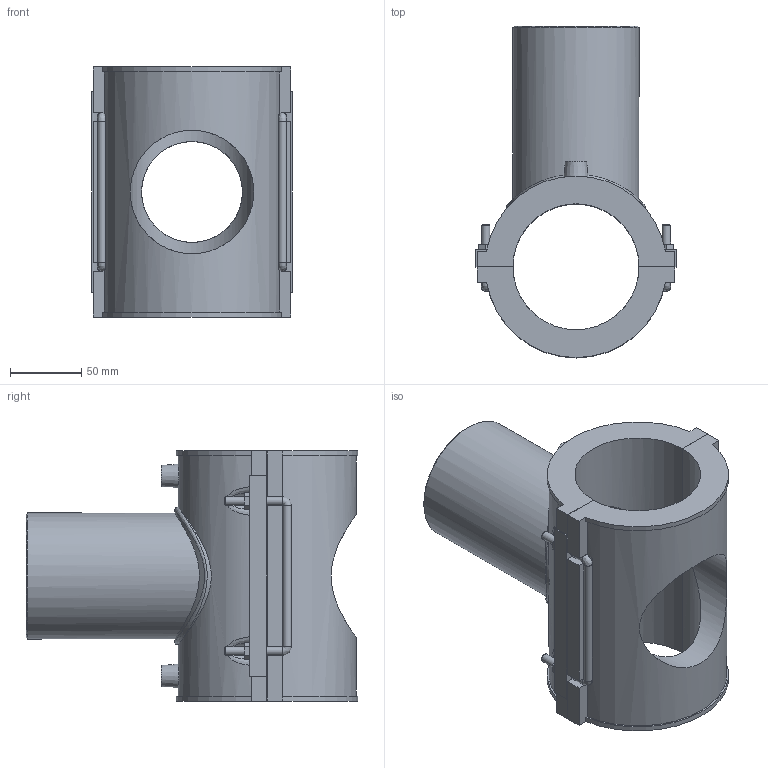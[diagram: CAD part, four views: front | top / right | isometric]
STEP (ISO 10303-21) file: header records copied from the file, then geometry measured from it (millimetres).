
FILE_DESCRIPTION(/* description */ ('PLASSON BRANCH SADDLE 3'''' x 3'''''),/* implementation_level */ '2;1');
FILE_NAME(/* name */ 'C:\Dropbox\KIMPROJECTS-Inventor 2019\99-16-3568-Processing Inch\ASTM ElectroFusion 2021\5958B-2\5958BB03030030.ipt.stp',/* time_stamp */ '2021-08-30T09:53:39+03:00',/* author */ ('KIM'),/* organization */ (''),/* preprocessor_version */ 'ST-DEVELOPER v17.2',/* originating_system */ 'Autodesk Inventor 2019',/* authorisation */ '');
FILE_SCHEMA (('AUTOMOTIVE_DESIGN { 1 0 10303 214 3 1 1 }'));
Length unit declared in the file: inch
Products named in the file (1): 5958BB03030030
Bounding box: 141.19 x 233.46 x 176.02 mm (x, y, z)
Volume: 1213213.5 mm3; surface area: 209947 mm2
Topology: 1 solids, 1 shells, 150 faces, 391 edges, 249 vertices
Faces by surface type: plane 89, cylinder 41, bspline 13, cone 7
Full cylindrical faces by diameter (mm): 4 x2, 6 x8, 10 x2, 70.96 x1, 86.926 x1, 88.7 x1
Entity records: 5864 total; most frequent: CARTESIAN_POINT 2225, ORIENTED_EDGE 766, DIRECTION 701, EDGE_CURVE 383, VERTEX_POINT 249, LINE 239, VECTOR 239, AXIS2_PLACEMENT_3D 231
